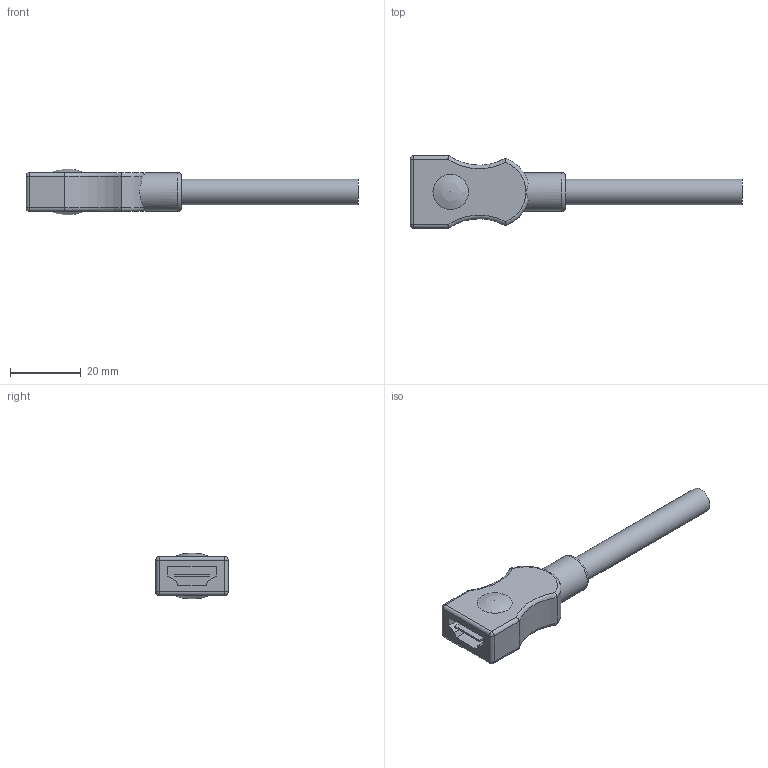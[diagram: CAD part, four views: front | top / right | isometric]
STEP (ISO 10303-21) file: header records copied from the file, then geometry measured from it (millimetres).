
FILE_DESCRIPTION(('FreeCAD Model'),'2;1');
FILE_NAME('Open CASCADE Shape Model','2026-06-15T13:14:45',(''),(''), 'Open CASCADE STEP processor 7.8','FreeCAD','Unknown');
FILE_SCHEMA(('AUTOMOTIVE_DESIGN { 1 0 10303 214 1 1 1 1 }'));
Length unit declared in the file: millimetre
Products named in the file (1): HDMI-AMSCAM-0200-XX_P1
Bounding box: 94 x 20.5 x 13 mm (x, y, z)
Volume: 9095.9 mm3; surface area: 4155.6 mm2
Topology: 1 solids, 1 shells, 49 faces, 115 edges, 67 vertices
Faces by surface type: plane 21, cylinder 14, torus 8, sphere 6
Full cylindrical faces by diameter (mm): 7.3 x1, 11 x1
Entity records: 1686 total; most frequent: CARTESIAN_POINT 577, DIRECTION 230, ORIENTED_EDGE 218, EDGE_CURVE 109, AXIS2_PLACEMENT_3D 86, VERTEX_POINT 67, LINE 58, VECTOR 58
